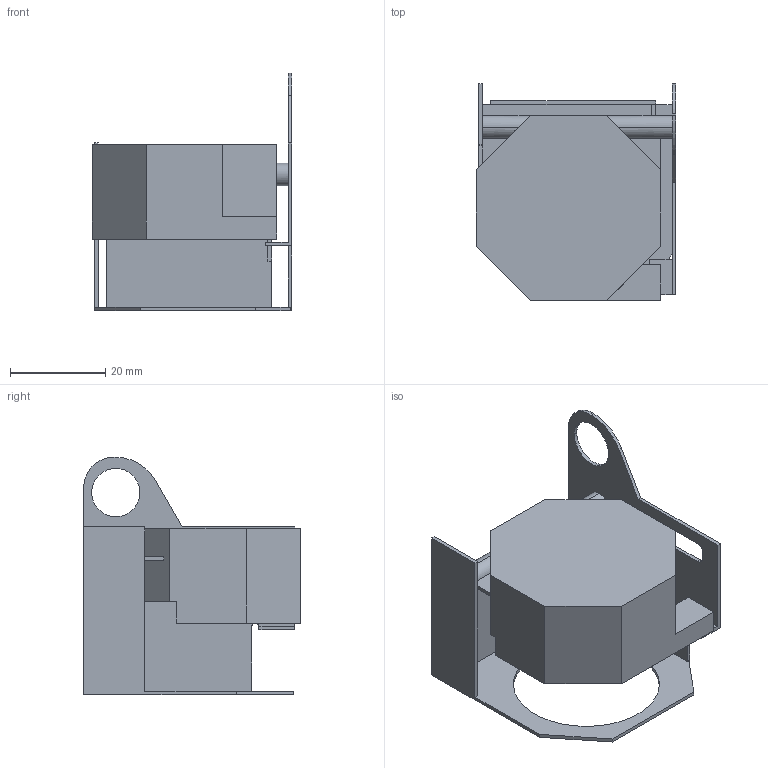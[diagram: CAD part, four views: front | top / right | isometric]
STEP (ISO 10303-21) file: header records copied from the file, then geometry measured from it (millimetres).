
FILE_DESCRIPTION((''),'2;1');
FILE_NAME('800T-N163','2015-11-13T',('mguelmi'),('Rockwell Automation'),'PRO/ENGINEER BY PARAMETRIC TECHNOLOGY CORPORATION, 2012480','PRO/ENGINEER BY PARAMETRIC TECHNOLOGY CORPORATION, 2012480','');
FILE_SCHEMA(('CONFIG_CONTROL_DESIGN'));
Length unit declared in the file: inch
Products named in the file (1): 800T-N163
Bounding box: 41.87 x 45.44 x 49.81 mm (x, y, z)
Volume: 5779.7 mm3; surface area: 15537.1 mm2
Topology: 1 solids, 1 shells, 102 faces, 298 edges, 195 vertices
Faces by surface type: plane 82, cylinder 20
Entity records: 3458 total; most frequent: CARTESIAN_POINT 692, ORIENTED_EDGE 596, DIRECTION 520, EDGE_CURVE 298, VECTOR 250, LINE 250, VERTEX_POINT 195, AXIS2_PLACEMENT_3D 135
